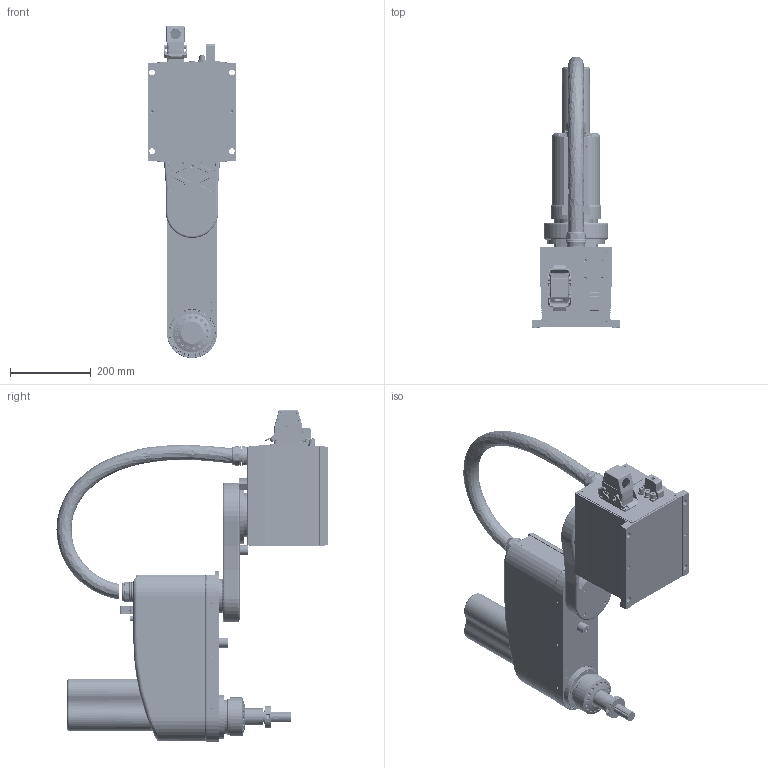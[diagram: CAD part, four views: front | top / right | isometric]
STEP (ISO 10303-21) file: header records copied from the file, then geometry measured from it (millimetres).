
FILE_DESCRIPTION (( 'STEP AP214' ), '1' );
FILE_NAME ('TKS605-500潠眢耀倰.STEP', '2018-09-10T11:37:31', ( 'wk' ), ( '' ), 'SwSTEP 2.0', 'SolidWorks 2017', '' );
FILE_SCHEMA (( 'AUTOMOTIVE_DESIGN' ));
Length unit declared in the file: millimetre
Products named in the file (6): TKS605珨粣; TKS605盄擢; TKS605-500潠眢耀倰; TKS605侐粣; TKS605媼粣-500; TKS605三轴
Assembly tree (5 placements, depth 2):
  TKS605-500潠眢耀倰
    TKS605三轴
    TKS605媼粣-500
    TKS605侐粣
    TKS605珨粣
    TKS605盄擢
Bounding box: 220 x 671.82 x 823 mm (x, y, z)
Volume: 9265910.1 mm3; surface area: 2701591.1 mm2
Topology: 177 solids, 233 shells, 6888 faces, 17552 edges, 10916 vertices
Faces by surface type: cylinder 2766, plane 2068, cone 776, bspline 700, sphere 296, torus 282
Entity records: 326130 total; most frequent: CARTESIAN_POINT 85134, ORIENTED_EDGE 33884, DIRECTION 33796, EDGE_CURVE 16942, AXIS2_PLACEMENT_3D 13266, VERTEX_POINT 10916, EDGE_LOOP 8332, LINE 7264
